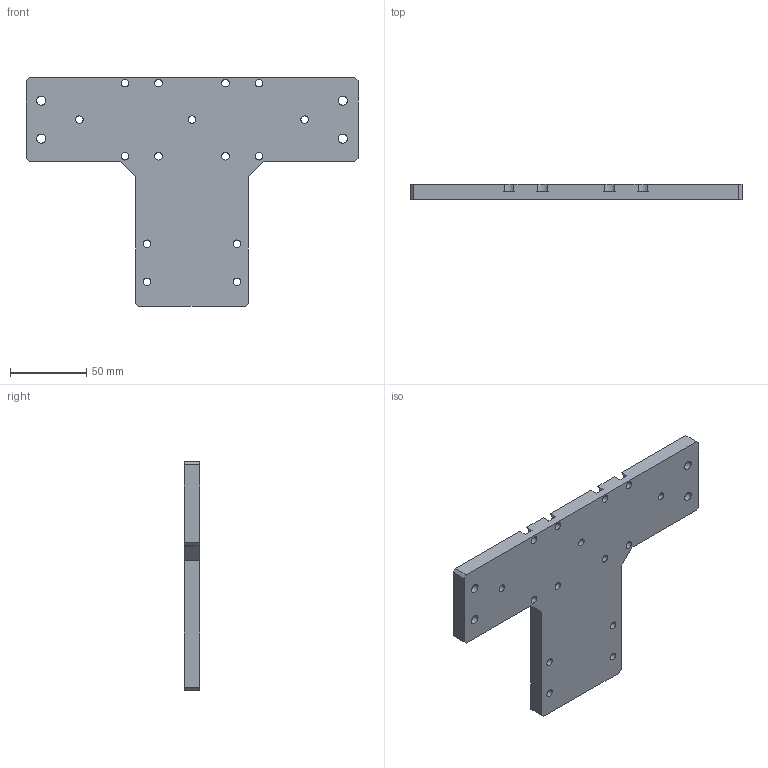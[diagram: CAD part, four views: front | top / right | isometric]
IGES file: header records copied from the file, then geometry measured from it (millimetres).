
Start section:  PTC IGES file: k46-k60m-ft.igs
Global section: file name: k46-k60m-ft.igs; native system: Pro/ENGINEER by Parametric Technology Corporation; preprocessor: 2008230; author: Owner; organization: Unknown; date: 20121212.103906; units: millimetre
Bounding box: 218 x 10 x 150 mm (x, y, z)
Surface area: 48547.8 mm2 (no closed solid volume)
Topology: 0 solids, 0 shells, 95 faces, 504 edges, 504 vertices
Faces by surface type: revolution 62, bspline 33
